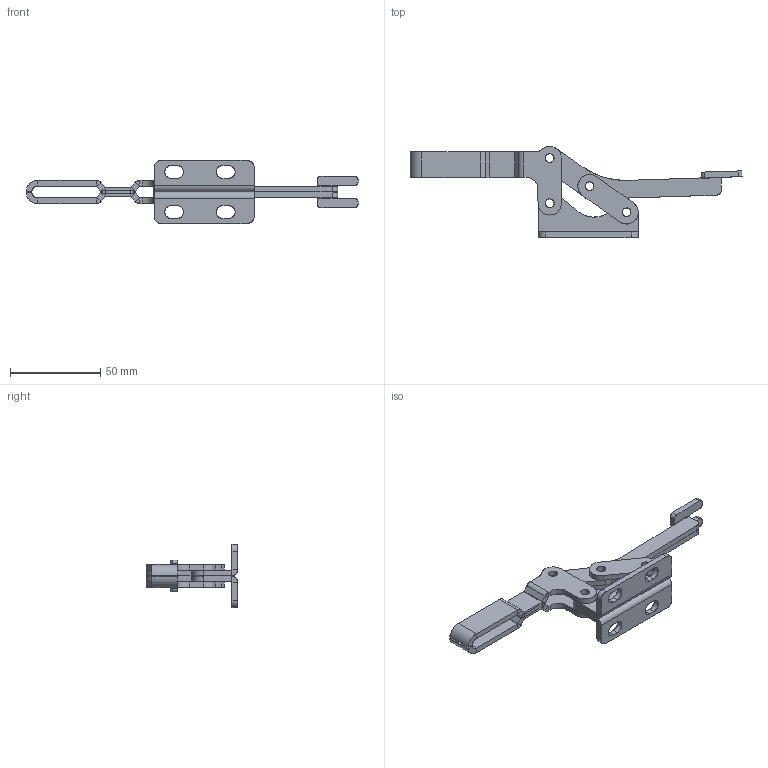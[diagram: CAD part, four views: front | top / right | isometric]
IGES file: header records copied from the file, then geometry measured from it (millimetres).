
Start section: SolidWorks IGES file using analytic representation for surfaces
Global section: file name: D:\GH Files\GH-SW-FILES\GH2\22165\22165.IGS; native system: SolidWorks 2007; preprocessor: SolidWorks 2007; author: Administrator; date: 061019.113650; units: millimetre
Bounding box: 183.73 x 50.5 x 34.9 mm (x, y, z)
Surface area: 25242 mm2 (no closed solid volume)
Topology: 0 solids, 0 shells, 254 faces, 3320 edges, 3320 vertices
Faces by surface type: bspline 146, revolution 108
